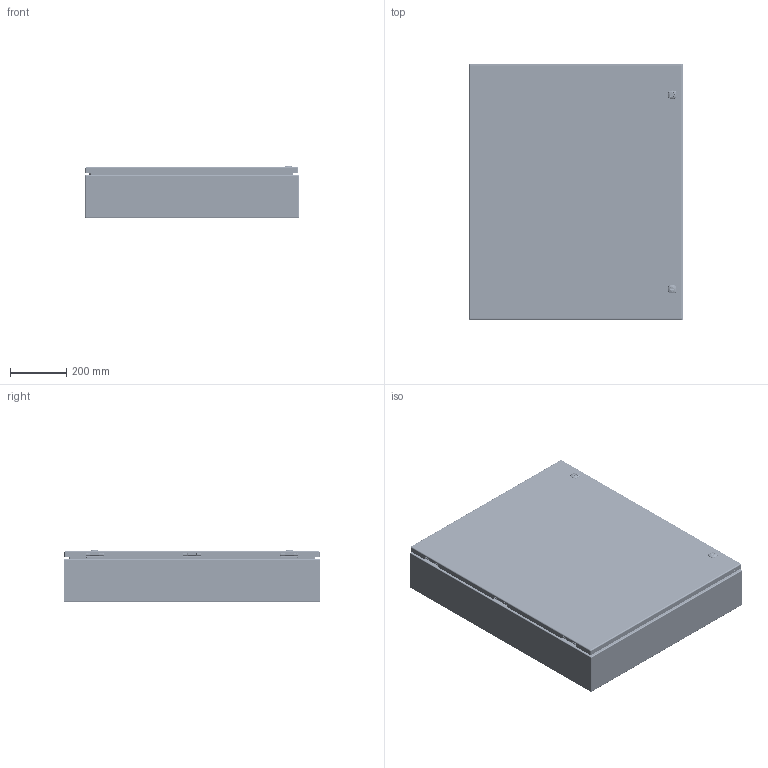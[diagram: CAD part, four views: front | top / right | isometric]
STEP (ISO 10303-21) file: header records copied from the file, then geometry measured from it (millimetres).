
FILE_DESCRIPTION(/* description */ ('5412ES 36" x 30" x 6" Assembly'),/* implementation_level */ '2;1');
FILE_NAME(/* name */ 'C:\Vault_Workspace\Inventor_Dwg\BoxCad\Result\5412ESB363006\e-mail\3D\5412ESB363006.stp',/* time_stamp */ '2022-03-19T03:22:27-04:00',/* author */ ('BoxCad'),/* organization */ (''),/* preprocessor_version */ 'ST-DEVELOPER v18.1',/* originating_system */ 'Autodesk Inventor 2020',/* authorisation */ '');
FILE_SCHEMA (('AUTOMOTIVE_DESIGN { 1 0 10303 214 3 1 1 }'));
Products named in the file (46): 5412ESB363006; 5412ESB363006B; 5412ESB363006B-P; STK-Q-16005; STUD_M6 x 16mm; STK-Q-07610; 881SP3630G; 881SP3630G-P; STK-Q-07310; 5412ESB363006C; 5412ESB363006C-P; 5412ESB363006G; STK-K-09800; STK-K-09800-2; STK-K-09800-3; STK-Q-33014; STK-Q-90398; STK-Q-40095; STK-Q-63410; STK-Q-16055; STK-Q-46020-36; STK-Q-07220-1; STK-Q-07220-2; STK-Q-07220-3; STK-Q-07220-4; STK-Q-07220-A; STK-Q-07220-B; STK-P-03820R; STK-S-00100; STK-A-880SCQ4-SL-1; STK-A-880SCQ4-SL-2; STK-Q-78110; STK-Q-78120; STK-Q-78145; STK-Q-03200; STK-Q-78125; STK-Q-78141; STK-Q-90390; STK-Q-78160; STK-Q-04050-07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
Assembly tree (97 placements, depth 4):
  5412ESB363006
    5412ESB363006B
      5412ESB363006B-P
      STK-Q-16005  x6
      STK-P-03820R
      STUD_M6 x 16mm
    STK-Q-07610  x6
    881SP3630G
      881SP3630G-P
    STK-Q-07310  x6
    5412ESB363006C
      5412ESB363006C-P
      5412ESB363006G
      STK-K-09800
        STK-Q-33014
        STK-Q-90398
        STK-Q-40095  x2
        STK-Q-63410  x2
      STK-K-09800-2
        STK-Q-33014
        STK-Q-90398
        STK-Q-40095  x2
        STK-Q-63410  x2
      STK-K-09800-3
        STK-Q-33014
        STK-Q-90398
        STK-Q-40095  x2
        STK-Q-63410  x2
      STK-Q-16055  x4
      STK-Q-46020-36  x2
      STK-Q-07220-1
        STK-Q-07220-A
        STK-Q-07220-B
      STK-Q-07220-2
        STK-Q-07220-A
        STK-Q-07220-B
      STK-Q-07220-3
        STK-Q-07220-A
        STK-Q-07220-B
      STK-Q-07220-4
        STK-Q-07220-A
        STK-Q-07220-B
      STK-P-03820R
      STK-S-00100
      STK-A-880SCQ4-SL-1
        STK-Q-78110
        STK-Q-78120
        STK-Q-78145
        STK-Q-03200
        STK-Q-78125
        STK-Q-78141
        STK-Q-90390
        STK-Q-78160
      STK-A-880SCQ4-SL-2
        STK-Q-78110
        STK-Q-78120
        STK-Q-78145
        STK-Q-03200
        STK-Q-78125
        STK-Q-78141
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Bounding box: 762.45 x 914.4 x 185.17 mm (x, y, z)
Volume: 5668916.1 mm3; surface area: 5834773.9 mm2
Topology: 78 solids, 78 shells, 12194 faces, 32790 edges, 20854 vertices
Faces by surface type: bspline 4333, plane 3345, cylinder 3218, torus 858, sphere 222, cone 218
Full cylindrical faces by diameter (mm): 0 x1, 0.75 x11, 0.762 x11, 1 x12, 1.1 x12, 3.2 x6, 4.191 x64, 4.5 x4, 4.521 x12, 4.75 x3, 4.85 x24, 4.95 x6, 5 x4, 5.1 x37, 5.156 x2, 5.6 x3, 5.9 x35, 6.015 x64, 6.65 x6, 6.8 x4, 6.85 x24, 7.3 x3, 7.366 x4, 7.9 x10, 8 x14, 8.382 x3, 9.5 x4, 9.6 x2, 9.906 x4, 10 x2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
Entity records: 158429 total; most frequent: CARTESIAN_POINT 64595, ORIENTED_EDGE 21358, DIRECTION 15777, EDGE_CURVE 10679, VERTEX_POINT 6775, AXIS2_PLACEMENT_3D 5818, EDGE_LOOP 4384, LINE 4141
